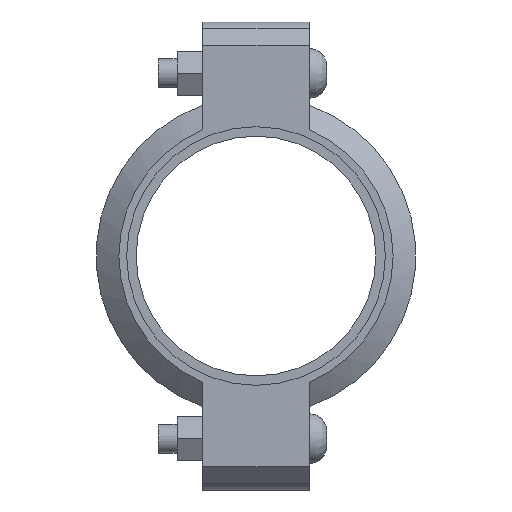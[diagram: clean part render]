
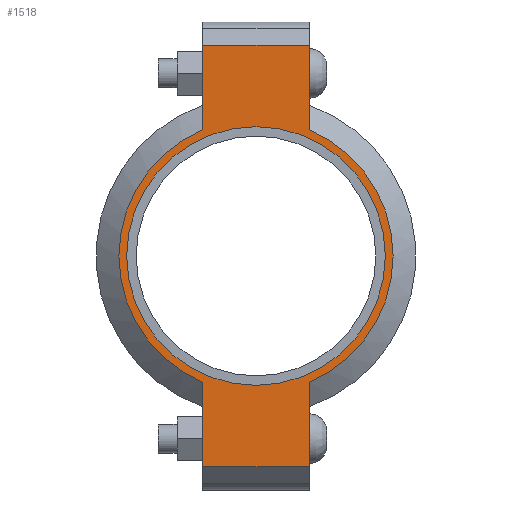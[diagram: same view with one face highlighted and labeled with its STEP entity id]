
A CAD part, left-side view. The second image highlights one B-rep face of the part: STEP entity #1518.
In plain terms, the highlighted planar face has unit normal (-1, 0, 0) as drawn and (0, 0, 1) by its records, which use the part's own axes.
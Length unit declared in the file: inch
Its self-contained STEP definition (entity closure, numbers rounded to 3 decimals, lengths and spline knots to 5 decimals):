
#142=LINE('',#2649,#235);
#150=LINE('',#2685,#243);
#157=LINE('',#2706,#250);
#166=LINE('',#2738,#259);
#167=LINE('',#2742,#260);
#168=LINE('',#2744,#261);
#235=VECTOR('',#2165,0.3937);
#243=VECTOR('',#2181,0.3937);
#250=VECTOR('',#2200,0.3937);
#259=VECTOR('',#2225,0.3937);
#260=VECTOR('',#2230,0.3937);
#261=VECTOR('',#2231,0.3937);
#317=FACE_BOUND('',#495,.T.);
#389=FACE_OUTER_BOUND('',#494,.T.);
#494=EDGE_LOOP('',(#1259,#1260,#1261,#1262,#1263,#1264,#1265,#1266));
#495=EDGE_LOOP('',(#1267));
#567=CIRCLE('',#1737,2.7815);
#593=CIRCLE('',#1796,2.95);
#594=CIRCLE('',#1797,2.95);
#659=VERTEX_POINT('',#2465);
#702=VERTEX_POINT('',#2646);
#703=VERTEX_POINT('',#2648);
#714=VERTEX_POINT('',#2680);
#715=VERTEX_POINT('',#2684);
#722=VERTEX_POINT('',#2703);
#723=VERTEX_POINT('',#2705);
#733=VERTEX_POINT('',#2741);
#734=VERTEX_POINT('',#2743);
#815=EDGE_CURVE('',#659,#659,#567,.T.);
#876=EDGE_CURVE('',#703,#702,#142,.T.);
#890=EDGE_CURVE('',#715,#714,#150,.T.);
#900=EDGE_CURVE('',#723,#722,#157,.T.);
#915=EDGE_CURVE('',#715,#702,#166,.T.);
#916=EDGE_CURVE('',#714,#723,#593,.T.);
#917=EDGE_CURVE('',#733,#722,#167,.T.);
#918=EDGE_CURVE('',#733,#734,#168,.T.);
#919=EDGE_CURVE('',#734,#703,#594,.T.);
#1259=ORIENTED_EDGE('',*,*,#915,.F.);
#1260=ORIENTED_EDGE('',*,*,#890,.T.);
#1261=ORIENTED_EDGE('',*,*,#916,.T.);
#1262=ORIENTED_EDGE('',*,*,#900,.T.);
#1263=ORIENTED_EDGE('',*,*,#917,.F.);
#1264=ORIENTED_EDGE('',*,*,#918,.T.);
#1265=ORIENTED_EDGE('',*,*,#919,.T.);
#1266=ORIENTED_EDGE('',*,*,#876,.T.);
#1267=ORIENTED_EDGE('',*,*,#815,.T.);
#1360=PLANE('',#1795);
#1518=ADVANCED_FACE('',(#389,#317),#1360,.T.);
#1737=AXIS2_PLACEMENT_3D('',#2467,#2041,#2042);
#1795=AXIS2_PLACEMENT_3D('',#2739,#2226,#2227);
#1796=AXIS2_PLACEMENT_3D('',#2740,#2228,#2229);
#1797=AXIS2_PLACEMENT_3D('',#2745,#2232,#2233);
#2041=DIRECTION('center_axis',(0.,0.,-1.));
#2042=DIRECTION('ref_axis',(-1.,0.,0.));
#2165=DIRECTION('',(-1.,0.,0.));
#2181=DIRECTION('',(1.,0.,0.));
#2200=DIRECTION('',(1.,0.,0.));
#2225=DIRECTION('',(0.,1.,0.));
#2226=DIRECTION('center_axis',(0.,0.,1.));
#2227=DIRECTION('ref_axis',(1.,0.,0.));
#2228=DIRECTION('center_axis',(0.,0.,1.));
#2229=DIRECTION('ref_axis',(-1.,0.,0.));
#2230=DIRECTION('',(0.,-1.,0.));
#2231=DIRECTION('',(-1.,0.,0.));
#2232=DIRECTION('center_axis',(0.,0.,1.));
#2233=DIRECTION('ref_axis',(-1.,0.,0.));
#2465=CARTESIAN_POINT('',(2.7815,0.,1.065));
#2467=CARTESIAN_POINT('Origin',(0.,0.,1.065));
#2646=CARTESIAN_POINT('',(-4.535,1.15,1.065));
#2648=CARTESIAN_POINT('',(-2.71662,1.15,1.065));
#2649=CARTESIAN_POINT('',(-5.035,1.15,1.065));
#2680=CARTESIAN_POINT('',(-2.71662,-1.15,1.065));
#2684=CARTESIAN_POINT('',(-4.535,-1.15,1.065));
#2685=CARTESIAN_POINT('',(5.035,-1.15,1.065));
#2703=CARTESIAN_POINT('',(4.535,-1.15,1.065));
#2705=CARTESIAN_POINT('',(2.71662,-1.15,1.065));
#2706=CARTESIAN_POINT('',(5.035,-1.15,1.065));
#2738=CARTESIAN_POINT('',(-4.535,0.575,1.065));
#2739=CARTESIAN_POINT('Origin',(0.,0.,1.065));
#2740=CARTESIAN_POINT('Origin',(0.,0.,1.065));
#2741=CARTESIAN_POINT('',(4.535,1.15,1.065));
#2742=CARTESIAN_POINT('',(4.535,-0.575,1.065));
#2743=CARTESIAN_POINT('',(2.71662,1.15,1.065));
#2744=CARTESIAN_POINT('',(-5.035,1.15,1.065));
#2745=CARTESIAN_POINT('Origin',(0.,0.,1.065));
